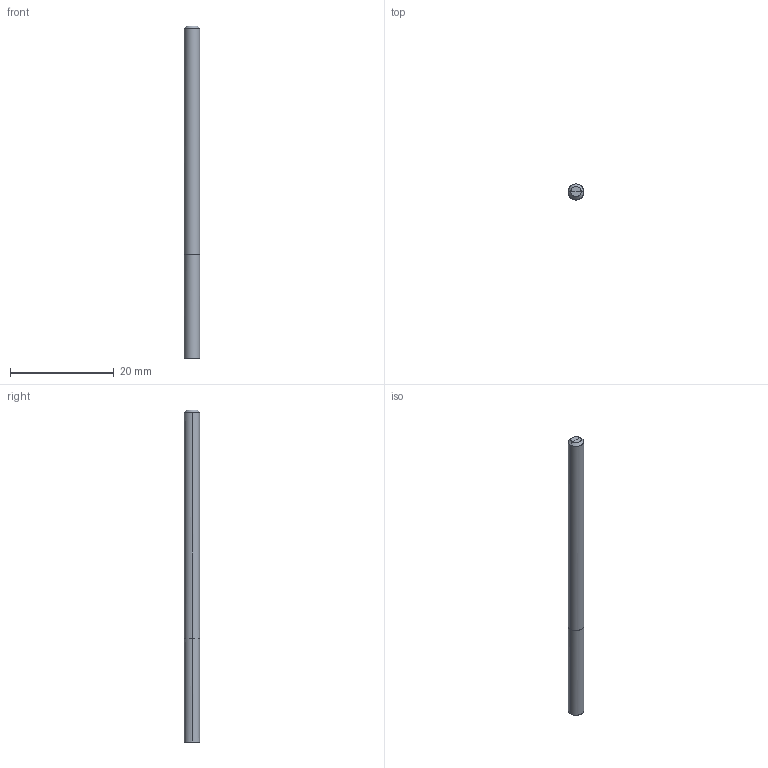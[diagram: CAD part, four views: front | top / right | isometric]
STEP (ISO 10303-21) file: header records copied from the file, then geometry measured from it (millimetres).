
FILE_DESCRIPTION(/* description */ (''),/* implementation_level */ '2;1');
FILE_NAME(/*name*/ '9001-3',/*time_stamp*/'2021-5-24T9:3:3',/*author*/ ('ISBE GmbH'),/*organization*/ ('ISBE GmbH'),/*preprocessor_version*/ 'STEP IO v1.0',/*originating_system*/ '',/*authorisation*/ '');
FILE_SCHEMA (('AUTOMOTIVE_DESIGN'));
Length unit declared in the file: millimetre
Products named in the file (1): Document
Bounding box: 3 x 3 x 64 mm (x, y, z)
Surface area: 629.3 mm2 (no closed solid volume)
Topology: 0 solids, 14 shells, 14 faces, 66 edges, 68 vertices
Faces by surface type: bspline 14
Entity records: 4352 total; most frequent: CARTESIAN_POINT 4055, VERTEX_POINT 48, EDGE_CURVE 48, ORIENTED_EDGE 48, DIRECTION 16, EDGE_LOOP 14, FACE_OUTER_BOUND 14, ADVANCED_FACE 14
